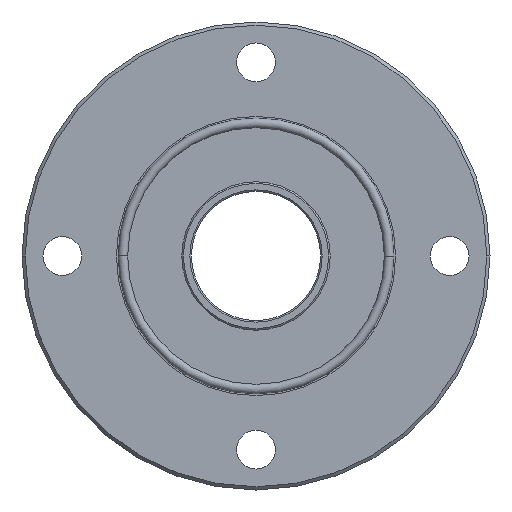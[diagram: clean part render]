
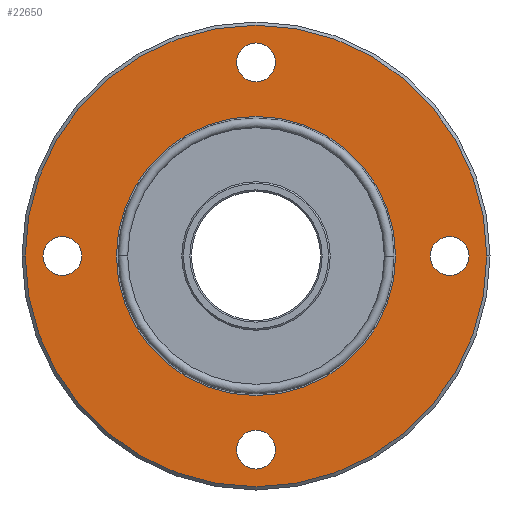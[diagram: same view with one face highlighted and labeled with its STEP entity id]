
A CAD part, left-side view. The second image highlights one B-rep face of the part: STEP entity #22650.
In plain terms, the highlighted planar face has unit normal (-1, 0, 0).
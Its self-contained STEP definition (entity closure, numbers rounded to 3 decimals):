
#88 = VERTEX_POINT ( 'NONE', #33757 ) ;
#89 = VERTEX_POINT ( 'NONE', #33756 ) ;
#116 = EDGE_CURVE ( 'NONE', #88, #89, #34531, .T. ) ;
#183 = VERTEX_POINT ( 'NONE', #35128 ) ;
#187 = EDGE_CURVE ( 'NONE', #200, #30906, #35106, .T. ) ;
#200 = VERTEX_POINT ( 'NONE', #35181 ) ;
#3060 = DIRECTION ( 'NONE',  ( 0., -1., 0. ) ) ;
#3061 = DIRECTION ( 'NONE',  ( -1., 0., 0. ) ) ;
#3062 = CARTESIAN_POINT ( 'NONE',  ( 0., 60., 0. ) ) ;
#3063 = AXIS2_PLACEMENT_3D ( 'NONE', #3062, #3061, #3060 ) ;
#3064 = CIRCLE ( 'NONE', #3063, 6. ) ;
#3066 = DIRECTION ( 'NONE',  ( 0., 0., 1. ) ) ;
#3067 = DIRECTION ( 'NONE',  ( -1., 0., 0. ) ) ;
#3068 = CARTESIAN_POINT ( 'NONE',  ( 0., 0., -60. ) ) ;
#3069 = AXIS2_PLACEMENT_3D ( 'NONE', #3068, #3067, #3066 ) ;
#3070 = CIRCLE ( 'NONE', #3069, 6. ) ;
#3104 = DIRECTION ( 'NONE',  ( 0., 1., 0. ) ) ;
#3105 = DIRECTION ( 'NONE',  ( -1., 0., 0. ) ) ;
#3106 = CARTESIAN_POINT ( 'NONE',  ( 0., -60., 0. ) ) ;
#3107 = AXIS2_PLACEMENT_3D ( 'NONE', #3106, #3105, #3104 ) ;
#3108 = CIRCLE ( 'NONE', #3107, 6. ) ;
#3109 = DIRECTION ( 'NONE',  ( 0., 0., -1. ) ) ;
#3110 = DIRECTION ( 'NONE',  ( -1., 0., 0. ) ) ;
#3111 = CARTESIAN_POINT ( 'NONE',  ( 0., 0., 60. ) ) ;
#3112 = AXIS2_PLACEMENT_3D ( 'NONE', #3111, #3110, #3109 ) ;
#3113 = CIRCLE ( 'NONE', #3112, 6. ) ;
#3114 = DIRECTION ( 'NONE',  ( 0., -1., 0. ) ) ;
#3115 = DIRECTION ( 'NONE',  ( -1., 0., 0. ) ) ;
#3116 = CARTESIAN_POINT ( 'NONE',  ( 0., 0., 0. ) ) ;
#3117 = AXIS2_PLACEMENT_3D ( 'NONE', #3116, #3115, #3114 ) ;
#3118 = CIRCLE ( 'NONE', #3117, 43.25 ) ;
#22650 = ADVANCED_FACE ( 'NONE', ( #34241, #34240, #34238, #34236, #34234, #34232 ), #34227, .T. ) ;
#22651 = EDGE_LOOP ( 'NONE', ( #22652, #22708 ) ) ;
#22652 = ORIENTED_EDGE ( 'NONE', *, *, #22653, .T. ) ;
#22653 = EDGE_CURVE ( 'NONE', #89, #88, #34217, .T. ) ;
#22695 = EDGE_CURVE ( 'NONE', #30903, #30900, #3070, .T. ) ;
#22696 = ORIENTED_EDGE ( 'NONE', *, *, #30902, .F. ) ;
#22697 = EDGE_LOOP ( 'NONE', ( #22698, #22700 ) ) ;
#22698 = ORIENTED_EDGE ( 'NONE', *, *, #22699, .F. ) ;
#22699 = EDGE_CURVE ( 'NONE', #30888, #30885, #3064, .T. ) ;
#22700 = ORIENTED_EDGE ( 'NONE', *, *, #30887, .F. ) ;
#22708 = ORIENTED_EDGE ( 'NONE', *, *, #116, .T. ) ;
#22709 = EDGE_LOOP ( 'NONE', ( #22710, #22712 ) ) ;
#22710 = ORIENTED_EDGE ( 'NONE', *, *, #22711, .F. ) ;
#22711 = EDGE_CURVE ( 'NONE', #30923, #183, #3118, .T. ) ;
#22712 = ORIENTED_EDGE ( 'NONE', *, *, #30922, .F. ) ;
#22713 = EDGE_LOOP ( 'NONE', ( #22714, #22716 ) ) ;
#22714 = ORIENTED_EDGE ( 'NONE', *, *, #22715, .F. ) ;
#22715 = EDGE_CURVE ( 'NONE', #30906, #200, #3113, .T. ) ;
#22716 = ORIENTED_EDGE ( 'NONE', *, *, #187, .F. ) ;
#22717 = EDGE_LOOP ( 'NONE', ( #22718, #22720 ) ) ;
#22718 = ORIENTED_EDGE ( 'NONE', *, *, #22719, .F. ) ;
#22719 = EDGE_CURVE ( 'NONE', #30920, #30917, #3108, .T. ) ;
#22720 = ORIENTED_EDGE ( 'NONE', *, *, #30919, .F. ) ;
#22721 = EDGE_LOOP ( 'NONE', ( #22722, #22696 ) ) ;
#22722 = ORIENTED_EDGE ( 'NONE', *, *, #22695, .F. ) ;
#26350 = CARTESIAN_POINT ( 'NONE',  ( 0., 54., 0. ) ) ;
#26351 = DIRECTION ( 'NONE',  ( 0., -1., 0. ) ) ;
#26352 = DIRECTION ( 'NONE',  ( -1., 0., 0. ) ) ;
#26353 = CARTESIAN_POINT ( 'NONE',  ( 0., 60., 0. ) ) ;
#26354 = AXIS2_PLACEMENT_3D ( 'NONE', #26353, #26352, #26351 ) ;
#26355 = CIRCLE ( 'NONE', #26354, 6. ) ;
#26356 = CARTESIAN_POINT ( 'NONE',  ( 0., 66., 0. ) ) ;
#26377 = CARTESIAN_POINT ( 'NONE',  ( 0., -6., 60. ) ) ;
#26382 = CARTESIAN_POINT ( 'NONE',  ( 0., -6., -60. ) ) ;
#26383 = DIRECTION ( 'NONE',  ( 0., 0., 1. ) ) ;
#26384 = DIRECTION ( 'NONE',  ( -1., 0., 0. ) ) ;
#26385 = CARTESIAN_POINT ( 'NONE',  ( 0., 0., -60. ) ) ;
#26386 = AXIS2_PLACEMENT_3D ( 'NONE', #26385, #26384, #26383 ) ;
#26387 = CIRCLE ( 'NONE', #26386, 6. ) ;
#26388 = CARTESIAN_POINT ( 'NONE',  ( 0., 6., -60. ) ) ;
#26405 = CARTESIAN_POINT ( 'NONE',  ( 0., -43.25, 0. ) ) ;
#26406 = DIRECTION ( 'NONE',  ( 0., -1., 0. ) ) ;
#26407 = DIRECTION ( 'NONE',  ( -1., 0., 0. ) ) ;
#26408 = CARTESIAN_POINT ( 'NONE',  ( 0., 0., 0. ) ) ;
#26409 = AXIS2_PLACEMENT_3D ( 'NONE', #26408, #26407, #26406 ) ;
#26410 = CIRCLE ( 'NONE', #26409, 43.25 ) ;
#26411 = CARTESIAN_POINT ( 'NONE',  ( 0., -66., 0. ) ) ;
#26412 = DIRECTION ( 'NONE',  ( 0., 1., 0. ) ) ;
#26413 = DIRECTION ( 'NONE',  ( -1., 0., 0. ) ) ;
#26414 = CARTESIAN_POINT ( 'NONE',  ( 0., -60., 0. ) ) ;
#26415 = AXIS2_PLACEMENT_3D ( 'NONE', #26414, #26413, #26412 ) ;
#26416 = CIRCLE ( 'NONE', #26415, 6. ) ;
#26417 = CARTESIAN_POINT ( 'NONE',  ( 0., -54., 0. ) ) ;
#30885 = VERTEX_POINT ( 'NONE', #26356 ) ;
#30887 = EDGE_CURVE ( 'NONE', #30885, #30888, #26355, .T. ) ;
#30888 = VERTEX_POINT ( 'NONE', #26350 ) ;
#30900 = VERTEX_POINT ( 'NONE', #26388 ) ;
#30902 = EDGE_CURVE ( 'NONE', #30900, #30903, #26387, .T. ) ;
#30903 = VERTEX_POINT ( 'NONE', #26382 ) ;
#30906 = VERTEX_POINT ( 'NONE', #26377 ) ;
#30917 = VERTEX_POINT ( 'NONE', #26417 ) ;
#30919 = EDGE_CURVE ( 'NONE', #30917, #30920, #26416, .T. ) ;
#30920 = VERTEX_POINT ( 'NONE', #26411 ) ;
#30922 = EDGE_CURVE ( 'NONE', #183, #30923, #26410, .T. ) ;
#30923 = VERTEX_POINT ( 'NONE', #26405 ) ;
#33756 = CARTESIAN_POINT ( 'NONE',  ( 0., 71.5, 0. ) ) ;
#33757 = CARTESIAN_POINT ( 'NONE',  ( 0., -71.5, 0. ) ) ;
#34211 = DIRECTION ( 'NONE',  ( 0., -1., 0. ) ) ;
#34213 = DIRECTION ( 'NONE',  ( -1., 0., 0. ) ) ;
#34215 = CARTESIAN_POINT ( 'NONE',  ( 0., 0., 0. ) ) ;
#34216 = AXIS2_PLACEMENT_3D ( 'NONE', #34215, #34213, #34211 ) ;
#34217 = CIRCLE ( 'NONE', #34216, 71.5 ) ;
#34220 = DIRECTION ( 'NONE',  ( 0., -1., 0. ) ) ;
#34222 = DIRECTION ( 'NONE',  ( -1., 0., 0. ) ) ;
#34224 = CARTESIAN_POINT ( 'NONE',  ( 0., 0., 0. ) ) ;
#34225 = AXIS2_PLACEMENT_3D ( 'NONE', #34224, #34222, #34220 ) ;
#34227 = PLANE ( 'NONE',  #34225 ) ;
#34232 = FACE_BOUND ( 'NONE', #22697, .T. ) ;
#34234 = FACE_BOUND ( 'NONE', #22721, .T. ) ;
#34236 = FACE_BOUND ( 'NONE', #22717, .T. ) ;
#34238 = FACE_BOUND ( 'NONE', #22713, .T. ) ;
#34240 = FACE_BOUND ( 'NONE', #22709, .T. ) ;
#34241 = FACE_OUTER_BOUND ( 'NONE', #22651, .T. ) ;
#34525 = DIRECTION ( 'NONE',  ( 0., -1., 0. ) ) ;
#34527 = DIRECTION ( 'NONE',  ( -1., 0., 0. ) ) ;
#34528 = CARTESIAN_POINT ( 'NONE',  ( 0., 0., 0. ) ) ;
#34530 = AXIS2_PLACEMENT_3D ( 'NONE', #34528, #34527, #34525 ) ;
#34531 = CIRCLE ( 'NONE', #34530, 71.5 ) ;
#35099 = DIRECTION ( 'NONE',  ( 0., 0., -1. ) ) ;
#35101 = DIRECTION ( 'NONE',  ( -1., 0., 0. ) ) ;
#35102 = CARTESIAN_POINT ( 'NONE',  ( 0., 0., 60. ) ) ;
#35104 = AXIS2_PLACEMENT_3D ( 'NONE', #35102, #35101, #35099 ) ;
#35106 = CIRCLE ( 'NONE', #35104, 6. ) ;
#35128 = CARTESIAN_POINT ( 'NONE',  ( 0., 43.25, 0. ) ) ;
#35181 = CARTESIAN_POINT ( 'NONE',  ( 0., 6., 60. ) ) ;
